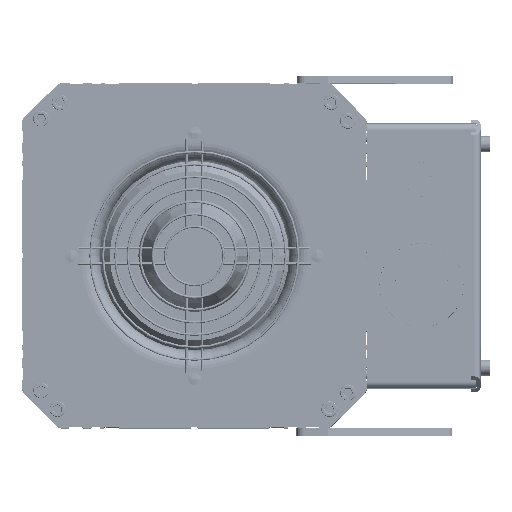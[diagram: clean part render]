
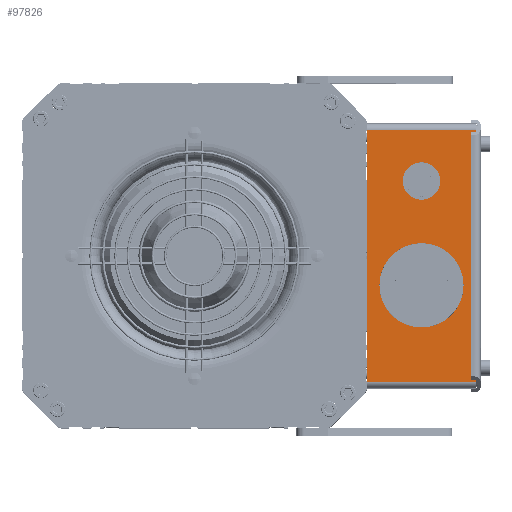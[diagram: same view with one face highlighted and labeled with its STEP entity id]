
A CAD part, top view. The second image highlights one B-rep face of the part: STEP entity #97826.
In plain terms, the highlighted planar face has unit normal (0, 0, 1) as drawn and (1, 0, 0) by its records, which use the part's own axes.
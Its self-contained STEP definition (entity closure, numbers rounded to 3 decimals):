
#95813=DIRECTION('',(0.,0.,-1.));
#95814=VECTOR('',#95813,70.);
#95815=CARTESIAN_POINT('',(80.,-81.,70.));
#95816=LINE('',#95815,#95814);
#95895=DIRECTION('',(0.,0.,1.));
#95896=VECTOR('',#95895,70.);
#95897=CARTESIAN_POINT('',(80.,81.,0.));
#95898=LINE('',#95897,#95896);
#95903=DIRECTION('',(0.,-1.,0.));
#95904=VECTOR('',#95903,162.);
#95905=CARTESIAN_POINT('',(80.,81.,0.));
#95906=LINE('',#95905,#95904);
#95907=CARTESIAN_POINT('',(80.,19.,35.));
#95908=DIRECTION('',(1.,0.,0.));
#95909=DIRECTION('',(0.,0.,1.));
#95910=AXIS2_PLACEMENT_3D('',#95907,#95908,#95909);
#95912=CARTESIAN_POINT('',(80.,19.,35.));
#95913=DIRECTION('',(1.,0.,0.));
#95914=DIRECTION('',(0.,0.,-1.));
#95915=AXIS2_PLACEMENT_3D('',#95912,#95913,#95914);
#95917=CARTESIAN_POINT('',(80.,-48.,35.));
#95918=DIRECTION('',(1.,0.,0.));
#95919=DIRECTION('',(0.,0.,1.));
#95920=AXIS2_PLACEMENT_3D('',#95917,#95918,#95919);
#95922=CARTESIAN_POINT('',(80.,-48.,35.));
#95923=DIRECTION('',(1.,0.,0.));
#95924=DIRECTION('',(0.,0.,-1.));
#95925=AXIS2_PLACEMENT_3D('',#95922,#95923,#95924);
#95932=DIRECTION('',(0.,-1.,0.));
#95933=VECTOR('',#95932,162.);
#95934=CARTESIAN_POINT('',(80.,81.,70.));
#95935=LINE('',#95934,#95933);
#97188=CARTESIAN_POINT('',(80.,-81.,0.));
#97190=VERTEX_POINT('',#97188);
#97191=CARTESIAN_POINT('',(80.,81.,0.));
#97192=VERTEX_POINT('',#97191);
#97225=CARTESIAN_POINT('',(80.,-81.,70.));
#97226=VERTEX_POINT('',#97225);
#97382=CARTESIAN_POINT('',(80.,81.,70.));
#97384=VERTEX_POINT('',#97382);
#97427=CARTESIAN_POINT('',(80.,19.,55.75));
#97428=CARTESIAN_POINT('',(80.,19.,14.25));
#97429=VERTEX_POINT('',#97427);
#97430=VERTEX_POINT('',#97428);
#97431=CARTESIAN_POINT('',(80.,-48.,43.));
#97432=CARTESIAN_POINT('',(80.,-48.,27.));
#97433=VERTEX_POINT('',#97431);
#97434=VERTEX_POINT('',#97432);
#97802=CARTESIAN_POINT('',(80.,-85.,0.));
#97803=DIRECTION('',(1.,0.,0.));
#97804=DIRECTION('',(0.,1.,0.));
#97805=AXIS2_PLACEMENT_3D('',#97802,#97803,#97804);
#97806=PLANE('',#97805);
#97807=ORIENTED_EDGE('',*,*,#97793,.F.);
#97808=ORIENTED_EDGE('',*,*,#97626,.T.);
#97809=ORIENTED_EDGE('',*,*,#97682,.F.);
#97811=ORIENTED_EDGE('',*,*,#97810,.F.);
#97812=EDGE_LOOP('',(#97807,#97808,#97809,#97811));
#97813=FACE_OUTER_BOUND('',#97812,.F.);
#97815=ORIENTED_EDGE('',*,*,#97814,.T.);
#97817=ORIENTED_EDGE('',*,*,#97816,.T.);
#97818=EDGE_LOOP('',(#97815,#97817));
#97819=FACE_BOUND('',#97818,.F.);
#97821=ORIENTED_EDGE('',*,*,#97820,.T.);
#97823=ORIENTED_EDGE('',*,*,#97822,.T.);
#97824=EDGE_LOOP('',(#97821,#97823));
#97825=FACE_BOUND('',#97824,.F.);
#95911=CIRCLE('',#95910,20.75);
#95916=CIRCLE('',#95915,20.75);
#95921=CIRCLE('',#95920,8.);
#95926=CIRCLE('',#95925,8.);
#97626=EDGE_CURVE('',#97192,#97190,#95906,.T.);
#97682=EDGE_CURVE('',#97226,#97190,#95816,.T.);
#97793=EDGE_CURVE('',#97192,#97384,#95898,.T.);
#97810=EDGE_CURVE('',#97384,#97226,#95935,.T.);
#97814=EDGE_CURVE('',#97429,#97430,#95911,.T.);
#97816=EDGE_CURVE('',#97430,#97429,#95916,.T.);
#97820=EDGE_CURVE('',#97433,#97434,#95921,.T.);
#97822=EDGE_CURVE('',#97434,#97433,#95926,.T.);
#97826=ADVANCED_FACE('',(#97813,#97819,#97825),#97806,.T.);
